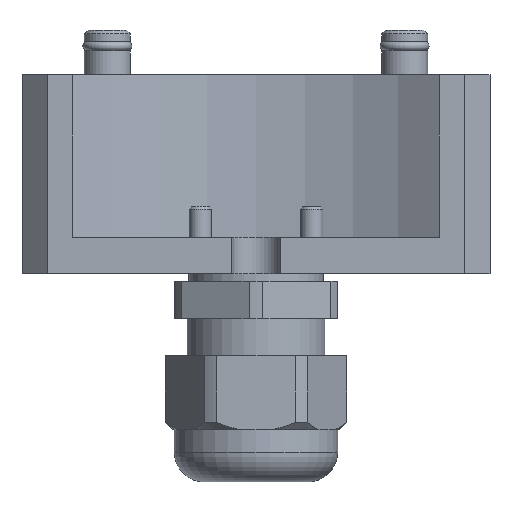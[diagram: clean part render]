
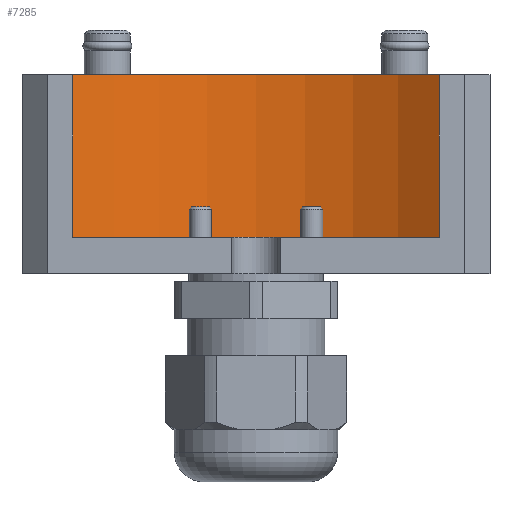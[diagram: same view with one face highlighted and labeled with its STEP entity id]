
A CAD part, front view. The second image highlights one B-rep face of the part: STEP entity #7285.
In plain terms, the highlighted cylindrical face has radius 40.1 mm (diameter 80.2 mm), a partial arc.
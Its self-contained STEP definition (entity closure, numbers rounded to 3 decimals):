
#402=CYLINDRICAL_SURFACE('',#7809,40.1);
#582=FACE_OUTER_BOUND('',#1006,.T.);
#1006=EDGE_LOOP('',(#4905,#4906,#4907,#4908));
#1502=LINE('',#11381,#1926);
#1503=LINE('',#11383,#1927);
#1926=VECTOR('',#8962,10.);
#1927=VECTOR('',#8963,10.);
#2367=CIRCLE('',#7777,40.1);
#2389=CIRCLE('',#7810,40.1);
#2946=VERTEX_POINT('',#11261);
#2947=VERTEX_POINT('',#11262);
#2977=VERTEX_POINT('',#11380);
#2978=VERTEX_POINT('',#11382);
#3718=EDGE_CURVE('',#2946,#2947,#2367,.T.);
#3759=EDGE_CURVE('',#2947,#2977,#1502,.T.);
#3760=EDGE_CURVE('',#2978,#2946,#1503,.T.);
#3761=EDGE_CURVE('',#2977,#2978,#2389,.T.);
#4905=ORIENTED_EDGE('',*,*,#3759,.F.);
#4906=ORIENTED_EDGE('',*,*,#3718,.F.);
#4907=ORIENTED_EDGE('',*,*,#3760,.F.);
#4908=ORIENTED_EDGE('',*,*,#3761,.F.);
#7285=ADVANCED_FACE('',(#582),#402,.F.);
#7777=AXIS2_PLACEMENT_3D('',#11263,#8880,#8881);
#7809=AXIS2_PLACEMENT_3D('',#11379,#8960,#8961);
#7810=AXIS2_PLACEMENT_3D('',#11384,#8964,#8965);
#8880=DIRECTION('center_axis',(0.,0.,-1.));
#8881=DIRECTION('ref_axis',(-1.,0.,0.));
#8960=DIRECTION('center_axis',(0.,0.,-1.));
#8961=DIRECTION('ref_axis',(-1.,0.,0.));
#8962=DIRECTION('',(0.,0.,-1.));
#8963=DIRECTION('',(0.,0.,1.));
#8964=DIRECTION('center_axis',(0.,0.,1.));
#8965=DIRECTION('ref_axis',(-1.,0.,0.));
#11261=CARTESIAN_POINT('',(-24.687,31.6,26.8));
#11262=CARTESIAN_POINT('',(24.687,31.6,26.8));
#11263=CARTESIAN_POINT('Origin',(0.,0.,26.8));
#11379=CARTESIAN_POINT('Origin',(0.,0.,26.8));
#11380=CARTESIAN_POINT('',(24.687,31.6,4.9));
#11381=CARTESIAN_POINT('',(24.687,31.6,26.8));
#11382=CARTESIAN_POINT('',(-24.687,31.6,4.9));
#11383=CARTESIAN_POINT('',(-24.687,31.6,26.8));
#11384=CARTESIAN_POINT('Origin',(0.,0.,4.9));
